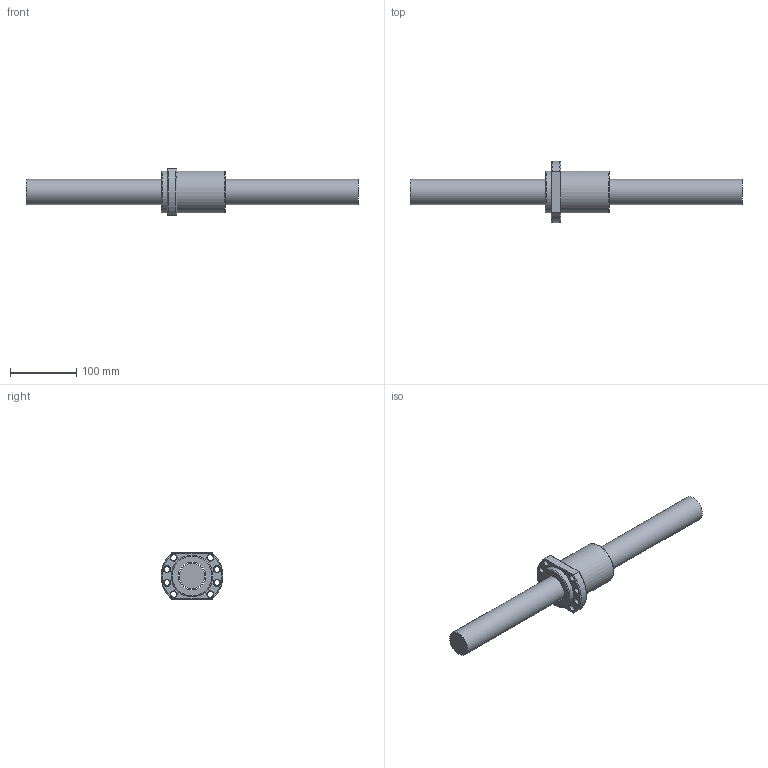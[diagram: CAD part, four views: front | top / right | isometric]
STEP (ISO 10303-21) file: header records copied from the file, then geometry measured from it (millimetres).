
FILE_DESCRIPTION (( 'STEP AP203' ), '1' );
FILE_NAME ('SFA4040-1.8.step', '2024-05-07T07:26:08', ( '' ), ( '' ), 'SwSTEP 2.0', 'SolidWorks 2022', '' );
FILE_SCHEMA (( 'CONFIG_CONTROL_DESIGN' ));
Length unit declared in the file: millimetre
Products named in the file (1): SFA4040-1.8
Bounding box: 500 x 93 x 70 mm (x, y, z)
Volume: 764858.7 mm3; surface area: 105445.2 mm2
Topology: 2 solids, 2 shells, 63 faces, 152 edges, 95 vertices
Faces by surface type: cylinder 22, cone 17, plane 13, torus 6, bspline 5
Full cylindrical faces by diameter (mm): 4 x1, 7 x6, 9 x8, 38 x1, 41.7 x1, 63 x2
Entity records: 3425 total; most frequent: CARTESIAN_POINT 2212, DIRECTION 226, ORIENTED_EDGE 188, EDGE_LOOP 112, AXIS2_PLACEMENT_3D 105, EDGE_CURVE 94, VERTEX_POINT 78, FACE_OUTER_BOUND 73
